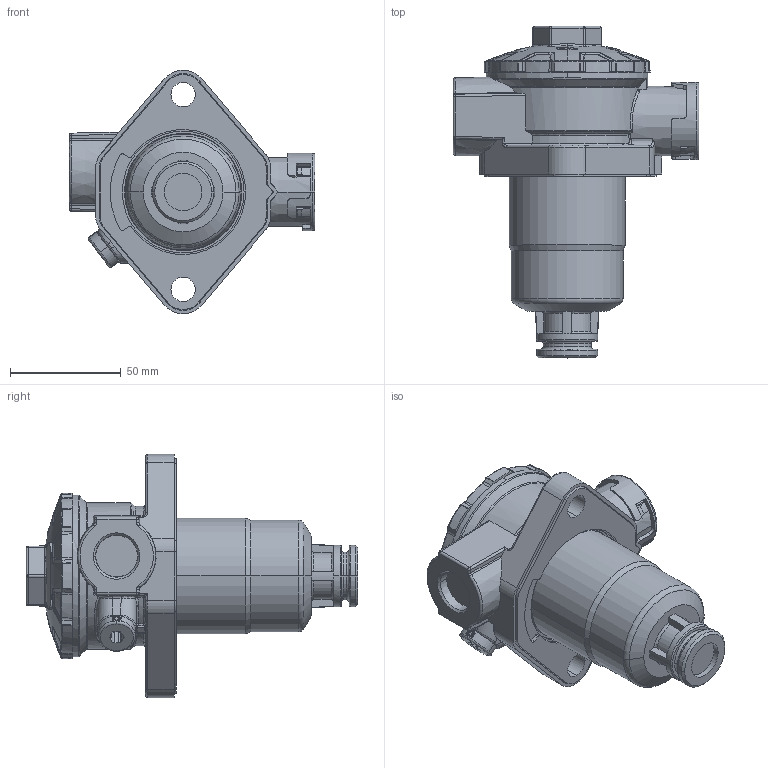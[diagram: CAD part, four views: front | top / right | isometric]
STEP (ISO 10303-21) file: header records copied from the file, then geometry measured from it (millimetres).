
FILE_DESCRIPTION((''),'2;1');
FILE_NAME('1000518058','2024-08-09T10:01:16',('a.heinl'),(''),'CREO PARAMETRIC BY PTC INC, 2023254','CREO PARAMETRIC BY PTC INC, 2023254','');
FILE_SCHEMA(('AUTOMOTIVE_DESIGN { 1 0 10303 214 1 1 1 1 }'));
Length unit declared in the file: millimetre
Products named in the file (1): 1000518058
Bounding box: 111.01 x 149.95 x 110 mm (x, y, z)
Volume: 415281.1 mm3; surface area: 53120.5 mm2
Topology: 1 solids, 4 shells, 1217 faces, 3153 edges, 1964 vertices
Faces by surface type: plane 442, bspline 286, cylinder 254, torus 102, cone 95, sphere 23, extrusion 15
Entity records: 59417 total; most frequent: CARTESIAN_POINT 23622, ORIENTED_EDGE 6250, DIRECTION 4396, PRESENTATION_STYLE_ASSIGNMENT 3126, STYLED_ITEM 3126, CURVE_STYLE 3125, EDGE_CURVE 3125, VERTEX_POINT 1964
